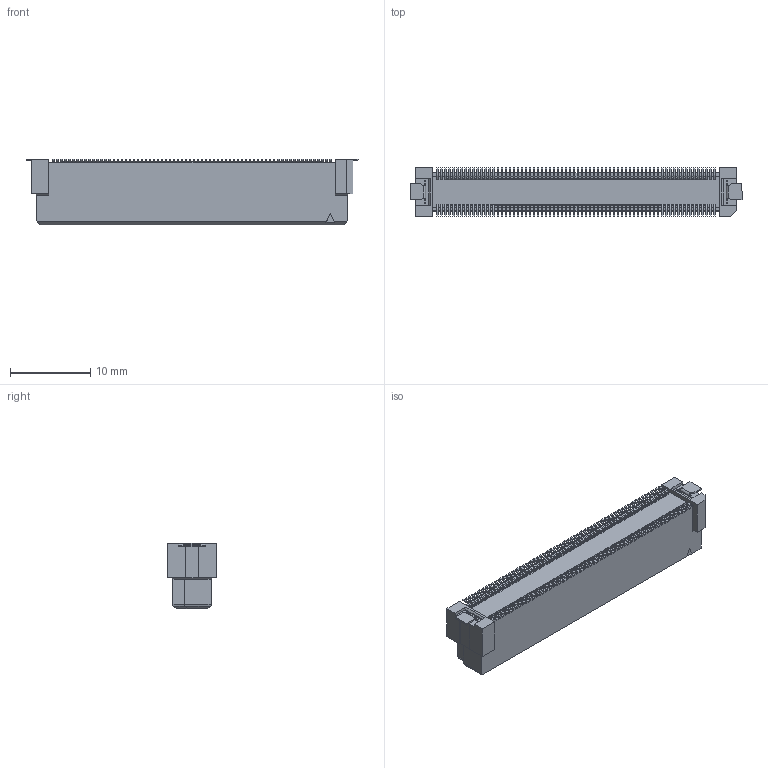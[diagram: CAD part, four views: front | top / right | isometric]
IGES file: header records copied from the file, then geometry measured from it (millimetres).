
Start section: Elysium IGES Interface
Global section: file name: 73HC:\Users\1502\Desktop\DT_webリニューアル\プラグ\ボス無\DT10-140S-10-T.igs; native system: Creo Elements/Direct Modeling 19.0F  14-Feb-2017; preprocessor: Creo Element/Direct IGES_3D V2.2; author: Unknown; organization: Unknown; date: 20170811.101319; units: millimetre
Bounding box: 41.4 x 6.2 x 8.18 mm (x, y, z)
Volume: 1278.4 mm3; surface area: 2236.3 mm2
Topology: 1 solids, 1 shells, 4891 faces, 13238 edges, 8632 vertices
Faces by surface type: bspline 4891
